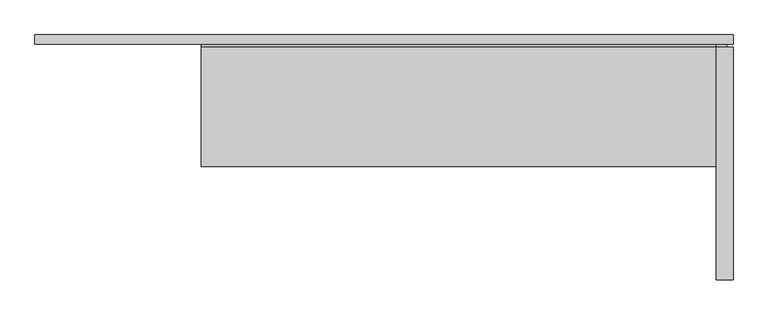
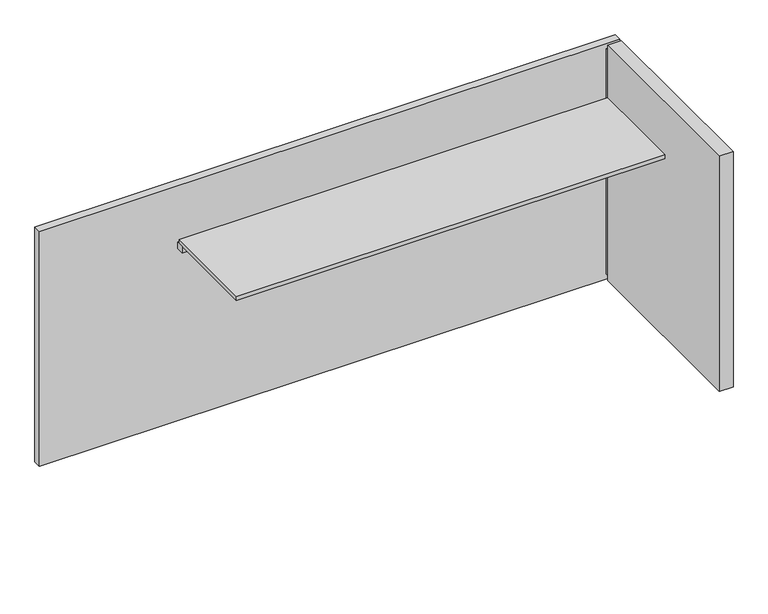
"""IFC4 building model written with IfcOpenShell, lengths in millimetres: proxy geometry, BASYS^OFFICE 6_MOD LOOP BASE DESK-84in U OFFICE."""

from ifc_helpers import new_model, si_unit, frame, origin, place, context, project, spatial, polyline, outline, extrude, source, transform, mapped, element, save


def generic_models_ac2c5b47(model_context):
    return source(origin(), model_context, "Body", "SweptSolid", [
        extrude(outline(polyline([(-558.1979396, -34.6129133), (-558.1979396, -6.0379133), (1029.3020604, -6.0379133), (1029.3020604, -34.6129133), (-558.1979396, -34.6129133)])), frame((0.0, 0.0, 80.6879515), z_axis=(0.0, 0.0, 1.0), x_axis=(1.0, 0.0, 0.0)), (0.0, 0.0, 1.0), 25.4),
        extrude(outline(polyline([(-558.1979396, -380.6879133), (-558.1979396, -15.5629133), (1016.6020604, -15.5629133), (1016.6020604, -380.6879133), (-558.1979396, -380.6879133)])), frame((0.0, 0.0, 106.0879515), z_axis=(0.0, 0.0, 1.0), x_axis=(1.0, 0.0, 0.0)), (0.0, 0.0, 1.0), 15.875),
        extrude(outline(polyline([(1067.4020604, -6.0379133), (-1066.1979396, -6.0379133), (-1066.1979396, 22.5370867), (1067.4020604, 22.5370867), (1067.4020604, -6.0379133)])), frame((0.0, 0.0, -589.2370485), z_axis=(0.0, 0.0, 1.0), x_axis=(1.0, 0.0, 0.0)), (0.0, 0.0, 1.0), 914.4),
        extrude(outline(polyline([(1067.4020604, -15.5629133), (1067.4020604, -726.7629133), (1016.6020604, -726.7629133), (1016.6020604, -15.5629133), (1067.4020604, -15.5629133)])), frame((0.0, 0.0, -589.2370485), z_axis=(0.0, 0.0, 1.0), x_axis=(1.0, 0.0, 0.0)), (0.0, 0.0, 1.0), 914.4),
        extrude(outline(polyline([(1048.3520604, -15.5629133), (1016.6020604, -15.5629133), (1016.6020604, -6.0379133), (1048.3520604, -6.0379133), (1048.3520604, -15.5629133)])), frame((0.0, 0.0, -570.1870485), z_axis=(0.0, 0.0, 1.0), x_axis=(1.0, 0.0, 0.0)), (0.0, 0.0, 1.0), 876.3),
    ])


if __name__ == "__main__":
    model = new_model("IFC4")
    model_context = context("Model", 3, world=origin())
    ifc_project = project(units=[si_unit("LENGTHUNIT", "METRE", prefix="MILLI")], contexts=[model_context])
    site = spatial("IfcSite", under=ifc_project)
    building = spatial("IfcBuilding", under=site)
    placement = place(None, origin())
    generic_models_shape = generic_models_ac2c5b47(model_context)
    element("IfcBuildingElementProxy", 1, Name="BASYS^OFFICE 6_MOD LOOP BASE DESK-84in U OFFICE", ObjectType="BASYS^OFFICE 6_MOD LOOP BASE DESK-84in U OFFICE", at=placement, inside=building, context=model_context, shape_type="MappedRepresentation", body=[
        mapped(generic_models_shape, transform((0.0, 0.0, 0.0), x_axis=(1.0, 0.0, 0.0), y_axis=(0.0, 1.0, 0.0), z_axis=(0.0, 0.0, 1.0))),
    ])
    save(model, "model.ifc")
